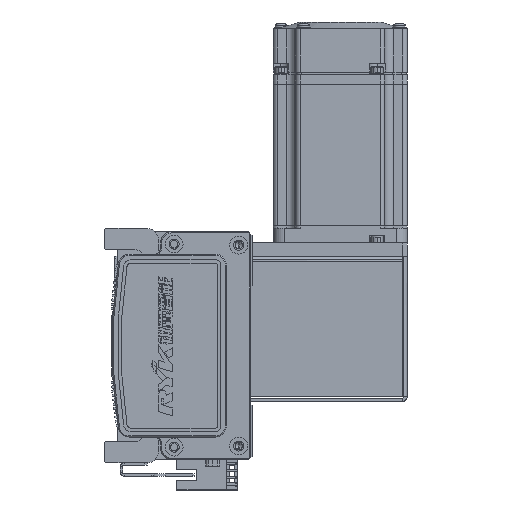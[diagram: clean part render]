
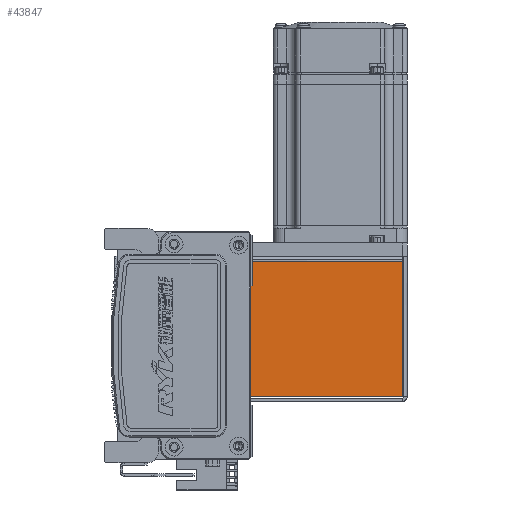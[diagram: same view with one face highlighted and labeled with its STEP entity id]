
A CAD part, left-side view. The second image highlights one B-rep face of the part: STEP entity #43847.
In plain terms, the highlighted planar face has unit normal (-1, 0, 0) as drawn and (0, 0, 1) by its records, which use the part's own axes.
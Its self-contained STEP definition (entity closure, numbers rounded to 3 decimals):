
#353 = PLANE ( 'NONE',  #36195 ) ;
#4198 = EDGE_CURVE ( 'NONE', #55998, #55577, #5716, .T. ) ;
#5459 = EDGE_CURVE ( 'NONE', #24810, #34813, #26227, .T. ) ;
#5716 = LINE ( 'NONE', #17577, #46145 ) ;
#7181 = CARTESIAN_POINT ( 'NONE',  ( 30.263, 0.737, 35. ) ) ;
#7323 = EDGE_CURVE ( 'NONE', #24810, #55998, #54022, .T. ) ;
#9533 = VECTOR ( 'NONE', #54676, 1000. ) ;
#15529 = VECTOR ( 'NONE', #65708, 1000. ) ;
#16316 = CARTESIAN_POINT ( 'NONE',  ( -30.293, 0.737, 35. ) ) ;
#17577 = CARTESIAN_POINT ( 'NONE',  ( 0., 72.5, 35. ) ) ;
#20443 = DIRECTION ( 'NONE',  ( 0., 0., -1. ) ) ;
#21354 = ORIENTED_EDGE ( 'NONE', *, *, #30502, .F. ) ;
#22119 = ORIENTED_EDGE ( 'NONE', *, *, #5459, .F. ) ;
#24810 = VERTEX_POINT ( 'NONE', #26691 ) ;
#26227 = LINE ( 'NONE', #53577, #36937 ) ;
#26691 = CARTESIAN_POINT ( 'NONE',  ( 30.263, 0.737, 35. ) ) ;
#27430 = CARTESIAN_POINT ( 'NONE',  ( -30.293, 72.5, 35. ) ) ;
#28967 = CARTESIAN_POINT ( 'NONE',  ( -30.293, 0., 35. ) ) ;
#30502 = EDGE_CURVE ( 'NONE', #34813, #55577, #35327, .T. ) ;
#31343 = DIRECTION ( 'NONE',  ( -1., 0., 0. ) ) ;
#32304 = EDGE_LOOP ( 'NONE', ( #53222, #55593, #21354, #22119 ) ) ;
#34674 = FACE_OUTER_BOUND ( 'NONE', #32304, .T. ) ;
#34813 = VERTEX_POINT ( 'NONE', #16316 ) ;
#35327 = LINE ( 'NONE', #28967, #15529 ) ;
#36195 = AXIS2_PLACEMENT_3D ( 'NONE', #52009, #20443, #31343 ) ;
#36937 = VECTOR ( 'NONE', #37709, 1000. ) ;
#37709 = DIRECTION ( 'NONE',  ( -1., 0., 0. ) ) ;
#43847 = ADVANCED_FACE ( 'NONE', ( #34674 ), #353, .F. ) ;
#46145 = VECTOR ( 'NONE', #64727, 1000. ) ;
#52009 = CARTESIAN_POINT ( 'NONE',  ( 0., 0., 35. ) ) ;
#53114 = CARTESIAN_POINT ( 'NONE',  ( 30.263, 72.5, 35. ) ) ;
#53222 = ORIENTED_EDGE ( 'NONE', *, *, #7323, .T. ) ;
#53577 = CARTESIAN_POINT ( 'NONE',  ( -32.5, 0.737, 35. ) ) ;
#54022 = LINE ( 'NONE', #7181, #9533 ) ;
#54676 = DIRECTION ( 'NONE',  ( 0., 1., 0. ) ) ;
#55577 = VERTEX_POINT ( 'NONE', #27430 ) ;
#55593 = ORIENTED_EDGE ( 'NONE', *, *, #4198, .T. ) ;
#55998 = VERTEX_POINT ( 'NONE', #53114 ) ;
#64727 = DIRECTION ( 'NONE',  ( -1., 0., 0. ) ) ;
#65708 = DIRECTION ( 'NONE',  ( 0., 1., 0. ) ) ;
